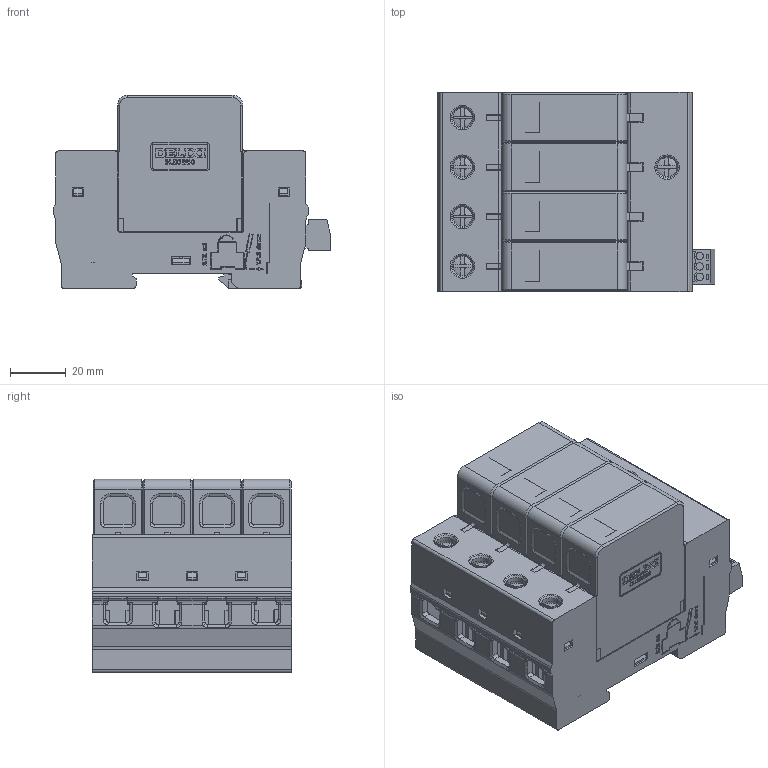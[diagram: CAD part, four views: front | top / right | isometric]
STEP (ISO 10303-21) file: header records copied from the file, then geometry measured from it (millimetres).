
FILE_DESCRIPTION((''),'2;1');
FILE_NAME('2DLX_207_001_1_DZ47Y-65_4P_ASM','2021-08-16T',('linxiao.guan'),(''),'PRO/ENGINEER BY PARAMETRIC TECHNOLOGY CORPORATION, 2015440','PRO/ENGINEER BY PARAMETRIC TECHNOLOGY CORPORATION, 2015440','');
FILE_SCHEMA(('CONFIG_CONTROL_DESIGN'));
Products named in the file (5): MANIFOLD_SOLID_BREP_159034; MANIFOLD_SOLID_BREP_159184; 2DLX_207_001_46_ASM_SW0001_1_ASM; 15EDGK-3_81-3_15EDGRC-3_81-3; 2DLX_207_001_1_DZ47Y-65_4P_ASM
Assembly tree (4 placements, depth 3):
  2DLX_207_001_1_DZ47Y-65_4P_ASM
    2DLX_207_001_46_ASM_SW0001_1_ASM
      MANIFOLD_SOLID_BREP_159034
      MANIFOLD_SOLID_BREP_159184
    15EDGK-3_81-3_15EDGRC-3_81-3
Bounding box: 100 x 71.6 x 69.5 mm (x, y, z)
Volume: 101916.6 mm3; surface area: 121547.9 mm2
Topology: 3 solids, 3 shells, 4824 faces, 14033 edges, 9252 vertices
Faces by surface type: plane 4242, cylinder 432, cone 78, torus 34, sphere 20, bspline 18
Entity records: 162300 total; most frequent: CARTESIAN_POINT 34140, ORIENTED_EDGE 28046, DIRECTION 24397, EDGE_CURVE 14023, VECTOR 12575, LINE 12575, VERTEX_POINT 9252, AXIS2_PLACEMENT_3D 5911
